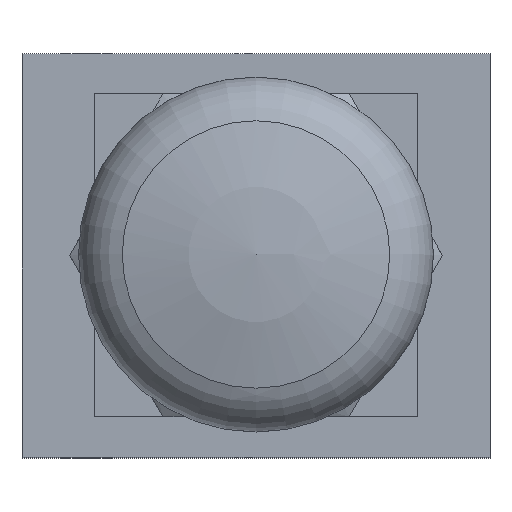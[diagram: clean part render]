
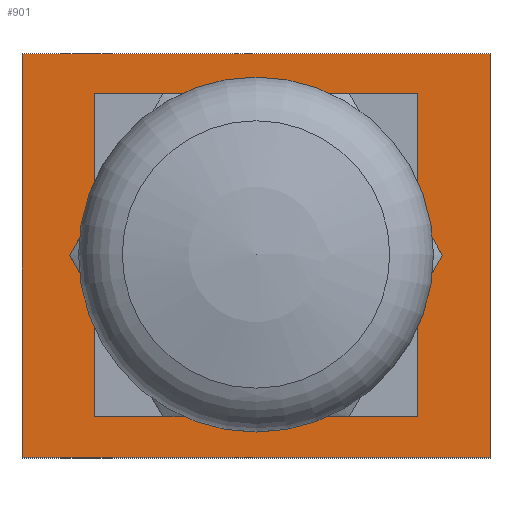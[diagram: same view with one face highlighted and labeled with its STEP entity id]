
A CAD part, top view. The second image highlights one B-rep face of the part: STEP entity #901.
In plain terms, the highlighted planar face has unit normal (0, 0, 1).
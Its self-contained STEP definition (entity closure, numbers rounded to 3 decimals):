
#37=LINE('',#1420,#79);
#41=LINE('',#1428,#83);
#44=LINE('',#1434,#86);
#47=LINE('',#1439,#89);
#66=LINE('',#1549,#108);
#68=LINE('',#1553,#110);
#70=LINE('',#1557,#112);
#72=LINE('',#1560,#114);
#79=VECTOR('',#1095,40.);
#83=VECTOR('',#1101,40.);
#86=VECTOR('',#1106,40.);
#89=VECTOR('',#1111,40.);
#108=VECTOR('',#1236,50.);
#110=VECTOR('',#1240,58.);
#112=VECTOR('',#1244,50.);
#114=VECTOR('',#1248,58.);
#166=PLANE('',#1009);
#232=FACE_BOUND('',#389,.T.);
#233=FACE_BOUND('',#390,.T.);
#389=EDGE_LOOP('',(#781,#782,#783,#784));
#390=EDGE_LOOP('',(#785,#786,#787,#788));
#471=VERTEX_POINT('',#1418);
#472=VERTEX_POINT('',#1419);
#475=VERTEX_POINT('',#1427);
#477=VERTEX_POINT('',#1433);
#515=VERTEX_POINT('',#1546);
#516=VERTEX_POINT('',#1548);
#517=VERTEX_POINT('',#1552);
#518=VERTEX_POINT('',#1556);
#553=EDGE_CURVE('',#471,#472,#37,.T.);
#557=EDGE_CURVE('',#472,#475,#41,.T.);
#560=EDGE_CURVE('',#475,#477,#44,.T.);
#563=EDGE_CURVE('',#477,#471,#47,.T.);
#606=EDGE_CURVE('',#516,#515,#66,.T.);
#608=EDGE_CURVE('',#517,#516,#68,.T.);
#610=EDGE_CURVE('',#518,#517,#70,.T.);
#612=EDGE_CURVE('',#515,#518,#72,.T.);
#781=ORIENTED_EDGE('',*,*,#553,.T.);
#782=ORIENTED_EDGE('',*,*,#557,.T.);
#783=ORIENTED_EDGE('',*,*,#560,.T.);
#784=ORIENTED_EDGE('',*,*,#563,.T.);
#785=ORIENTED_EDGE('',*,*,#612,.T.);
#786=ORIENTED_EDGE('',*,*,#610,.T.);
#787=ORIENTED_EDGE('',*,*,#608,.T.);
#788=ORIENTED_EDGE('',*,*,#606,.T.);
#901=ADVANCED_FACE('',(#232,#233),#166,.T.);
#1009=AXIS2_PLACEMENT_3D('',#1561,#1249,#1250);
#1095=DIRECTION('',(0.,-1.,0.));
#1101=DIRECTION('',(-1.,0.,0.));
#1106=DIRECTION('',(0.,1.,0.));
#1111=DIRECTION('',(1.,0.,0.));
#1236=DIRECTION('',(0.,-1.,0.));
#1240=DIRECTION('',(-1.,0.,0.));
#1244=DIRECTION('',(0.,1.,0.));
#1248=DIRECTION('',(1.,0.,0.));
#1249=DIRECTION('center_axis',(0.,0.,1.));
#1250=DIRECTION('ref_axis',(1.,0.,0.));
#1418=CARTESIAN_POINT('',(20.,20.,36.5));
#1419=CARTESIAN_POINT('',(20.,-20.,36.5));
#1420=CARTESIAN_POINT('',(20.,-10.,36.5));
#1427=CARTESIAN_POINT('',(-20.,-20.,36.5));
#1428=CARTESIAN_POINT('',(-10.,-20.,36.5));
#1433=CARTESIAN_POINT('',(-20.,20.,36.5));
#1434=CARTESIAN_POINT('',(-20.,10.,36.5));
#1439=CARTESIAN_POINT('',(10.,20.,36.5));
#1546=CARTESIAN_POINT('',(-29.,-25.,36.5));
#1548=CARTESIAN_POINT('',(-29.,25.,36.5));
#1549=CARTESIAN_POINT('',(-29.,25.,36.5));
#1552=CARTESIAN_POINT('',(29.,25.,36.5));
#1553=CARTESIAN_POINT('',(29.,25.,36.5));
#1556=CARTESIAN_POINT('',(29.,-25.,36.5));
#1557=CARTESIAN_POINT('',(29.,-25.,36.5));
#1560=CARTESIAN_POINT('',(-29.,-25.,36.5));
#1561=CARTESIAN_POINT('Origin',(0.,0.,36.5));
